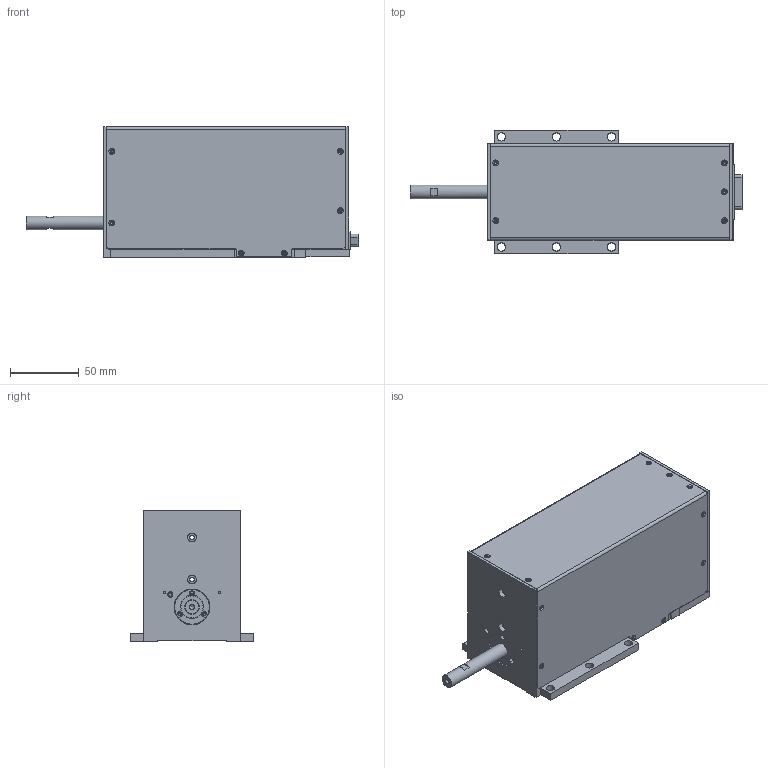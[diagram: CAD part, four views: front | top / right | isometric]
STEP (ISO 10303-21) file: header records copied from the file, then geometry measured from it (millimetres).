
FILE_DESCRIPTION((''),'2;1');
FILE_NAME('M:\P&VEND\ENGINEERING DATA BASE\DWG (TRANSFER)\Administrator\LAL95-025-8 STD UNIT.stp','2011-08-31T13:52:21',('karl'),(''),'Autodesk Inventor 2008','Autodesk Inventor 2008','');
FILE_SCHEMA(('AUTOMOTIVE_DESIGN { 1 0 10303 214 1 1 1 1 }'));
Length unit declared in the file: millimetre
Products named in the file (21): LAL95-025-8 STD UNIT; 11526-09_A; 22020-00_H; PART1; PLUG; SR6; 11524-01_B; DSUB (LA20); 48003-00_A; 11568-01_A; 14567-06_A; 16537-08_A; 23518-04_A
Assembly tree (21 placements, depth 3):
  LAL95-025-8 STD UNIT
    11526-09_A
      11526-09_A
    22020-00_H
      PART1
      PLUG
      SR6
    11524-01_B
      11524-01_B
    DSUB (LA20)
      DSUB (LA20)
    48003-00_A  x2
      48003-00_A
    11568-01_A
      11568-01_A
    14567-06_A
      14567-06_A
    16537-08_A
      16537-08_A
    23518-04_A
      23518-04_A
Bounding box: 241.15 x 90 x 95 mm (x, y, z)
Volume: 240092.9 mm3; surface area: 172394 mm2
Topology: 12 solids, 12 shells, 571 faces, 1359 edges, 897 vertices
Faces by surface type: plane 271, cylinder 226, cone 64, torus 6, bspline 4
Full cylindrical faces by diameter (mm): 1 x54, 1.567 x5, 1.679 x2, 1.9 x6, 1.95 x1, 1.98 x2, 1.984 x2, 2 x7, 2.013 x5, 2.157 x2, 2.3 x6, 2.459 x4, 2.599 x4, 2.8 x2, 2.9 x6, 3 x6, 3.1 x1, 3.3 x2, 3.4 x8, 3.5 x4, 4 x1, 4.5 x2, 5 x2, 6 x6, 6.4 x6, 6.5 x2, 7.99 x1, 9.991 x1, 10 x1, 10.4 x2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
Entity records: 15656 total; most frequent: DIRECTION 2767, CARTESIAN_POINT 2562, ORIENTED_EDGE 2104, AXIS2_PLACEMENT_3D 1120, EDGE_CURVE 1052, EDGE_LOOP 1015, VERTEX_POINT 825, FACE_OUTER_BOUND 555
